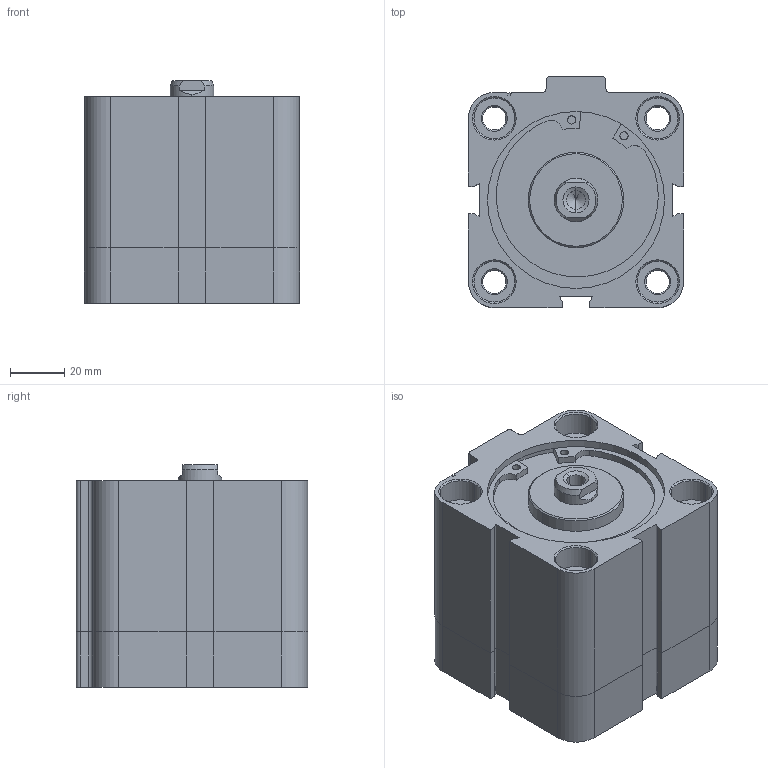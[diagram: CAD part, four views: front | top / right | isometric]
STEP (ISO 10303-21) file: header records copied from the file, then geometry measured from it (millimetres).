
FILE_DESCRIPTION (( 'STEP AP214' ), '1' );
FILE_NAME ('WSAC-063-0030 (MDMY).STEP', '2016-10-19T10:47:39', ( 'Hidtek' ), ( '' ), 'SwSTEP 2.0', 'SolidWorks 2016', '' );
FILE_SCHEMA (( 'AUTOMOTIVE_DESIGN' ));
Length unit declared in the file: millimetre
Products named in the file (3): Group2^WSAC-063-0030 (MDMY); Group1^WSAC-063-0030 (MDMY); WSAC-063-0030 (MDMY)
Assembly tree (2 placements, depth 2):
  WSAC-063-0030 (MDMY)
    Group2^WSAC-063-0030 (MDMY)
    Group1^WSAC-063-0030 (MDMY)
Bounding box: 79 x 85 x 81.9 mm (x, y, z)
Volume: 336757 mm3; surface area: 86082.2 mm2
Topology: 5 solids, 5 shells, 321 faces, 823 edges, 535 vertices
Faces by surface type: plane 188, cylinder 93, cone 40
Entity records: 11005 total; most frequent: CARTESIAN_POINT 1706, DIRECTION 1689, ORIENTED_EDGE 1642, EDGE_CURVE 821, LINE 589, VECTOR 589, AXIS2_PLACEMENT_3D 550, VERTEX_POINT 535
